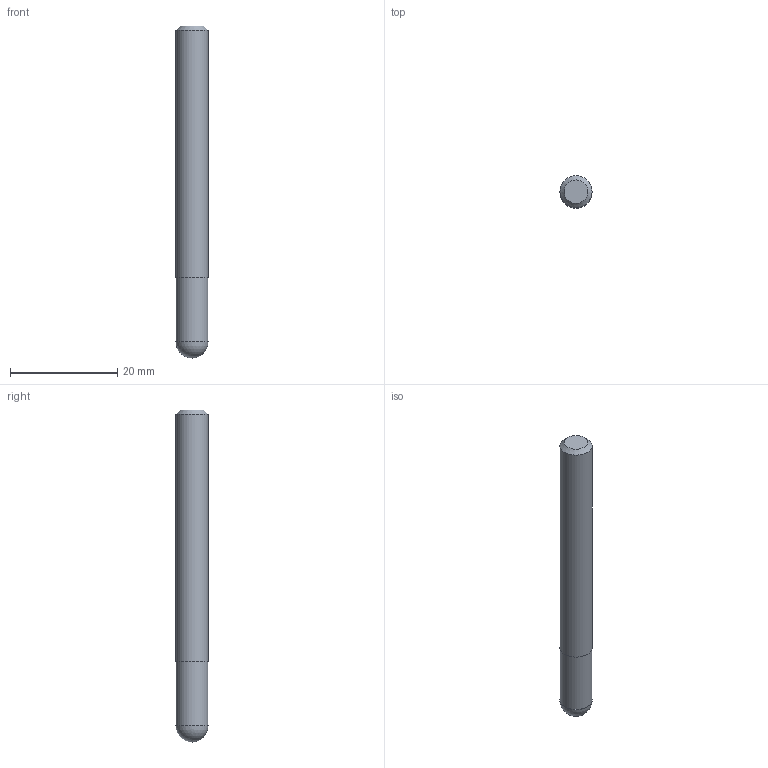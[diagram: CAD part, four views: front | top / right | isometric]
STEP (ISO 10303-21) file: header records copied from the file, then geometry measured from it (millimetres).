
FILE_DESCRIPTION((''),'2;1');
FILE_NAME('C:\Users\nsx150\AppData\Local\Temp\Mastercam 2021\YL1MSSW1B8\TEMP.step','2022-11-24T15:43:17',(''),(''),'STEP Write','Mastercam 2021 ... CNC Software, Inc.','');
FILE_SCHEMA(('AUTOMOTIVE_DESIGN'));
Length unit declared in the file: millimetre
Products named in the file (1): None
Bounding box: 6 x 6 x 62 mm (x, y, z)
Volume: 1710.3 mm3; surface area: 1240.8 mm2
Topology: 2 solids, 2 shells, 8 faces, 11 edges, 7 vertices
Faces by surface type: plane 4, cylinder 2, sphere 1, cone 1
Full cylindrical faces by diameter (mm): 5.92 x1, 6 x1
Entity records: 190 total; most frequent: DIRECTION 32, CARTESIAN_POINT 22, AXIS2_PLACEMENT_3D 16, ORIENTED_EDGE 12, EDGE_LOOP 12, STYLED_ITEM 11, ADVANCED_FACE 8, VERTEX_POINT 6
